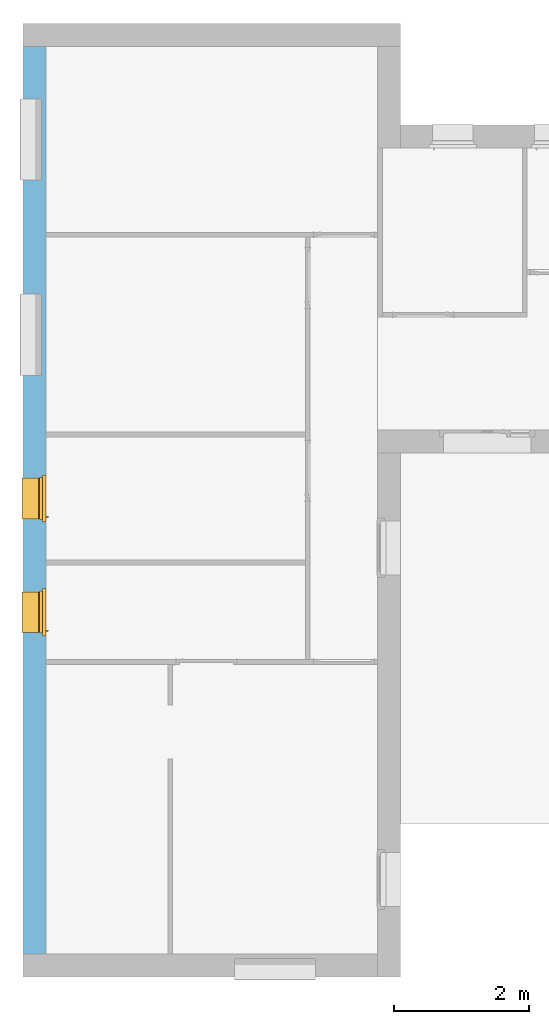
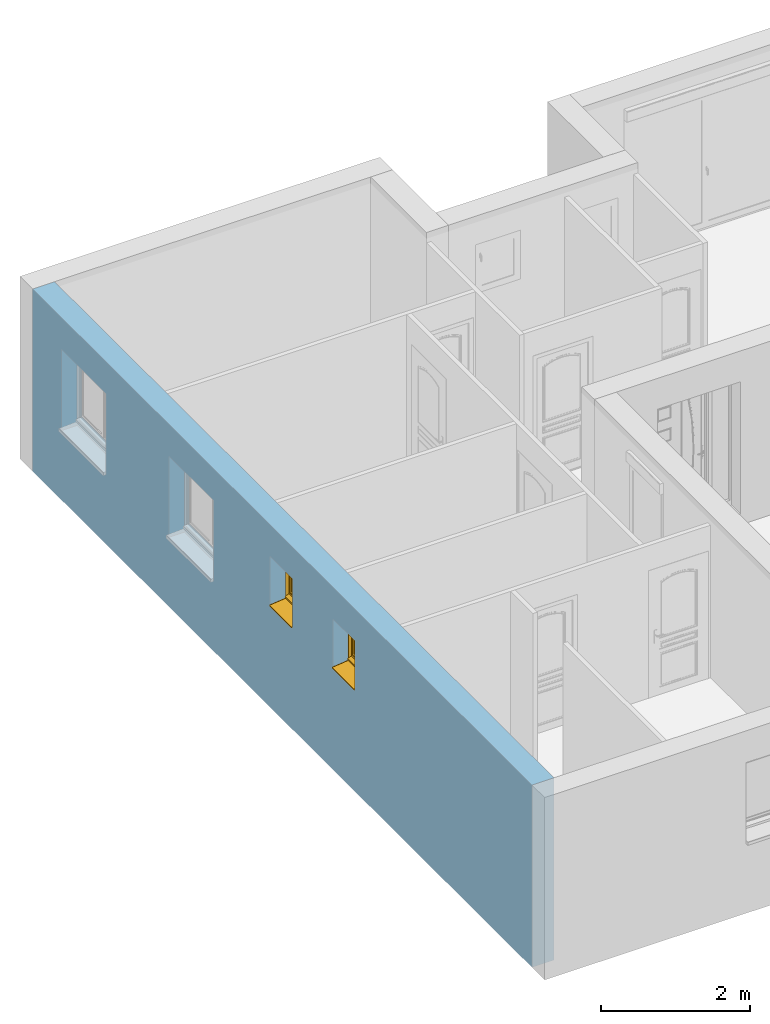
# One storey, part 8 of 23: 2 windows, 4 openings, plus 1 element that does not belong to this part.
"""IFC2X3 building model written with IfcOpenShell, lengths in metres."""

from ifc_helpers import new_model, entity, si_unit, converted_unit, derived_unit, direction, frame, frame_2d, origin, place, context, subcontext, project, spatial, rectangle, extrude, faceted_brep, source, transform, mapped, material, material_list, layer, layer_set, layer_usage, type_object, type_shapes, element, fill, save


model = new_model("IFC2X3")

# Units and contexts
model_context = context("Model", 3, precision=1e-05, world=origin(), true_north=direction((6.12303176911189e-17, 1.0)))
body_context = subcontext(model_context, "Body", "Model", "MODEL_VIEW")
ifc_project = project(units=[si_unit("LENGTHUNIT", "METRE"), si_unit("AREAUNIT", "SQUARE_METRE"), si_unit("VOLUMEUNIT", "CUBIC_METRE"), converted_unit("PLANEANGLEUNIT", "DEGREE", entity("IfcRatioMeasure", 0.0174532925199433), si_unit("PLANEANGLEUNIT", "RADIAN"), dimensions=[0, 0, 0, 0, 0, 0, 0]), si_unit("MASSUNIT", "GRAM", prefix="KILO"), derived_unit("MASSDENSITYUNIT", [(si_unit("MASSUNIT", "GRAM", prefix="KILO"), 1), (si_unit("LENGTHUNIT", "METRE"), -3)]), si_unit("TIMEUNIT", "SECOND"), si_unit("FREQUENCYUNIT", "HERTZ"), si_unit("THERMODYNAMICTEMPERATUREUNIT", "DEGREE_CELSIUS"), derived_unit("THERMALTRANSMITTANCEUNIT", [(si_unit("MASSUNIT", "GRAM", prefix="KILO"), 1), (si_unit("THERMODYNAMICTEMPERATUREUNIT", "KELVIN"), -1), (si_unit("TIMEUNIT", "SECOND"), -3)]), derived_unit("VOLUMETRICFLOWRATEUNIT", [(si_unit("LENGTHUNIT", "METRE"), 3), (si_unit("TIMEUNIT", "SECOND"), -1)]), si_unit("ELECTRICCURRENTUNIT", "AMPERE"), si_unit("ELECTRICVOLTAGEUNIT", "VOLT"), si_unit("POWERUNIT", "WATT"), si_unit("FORCEUNIT", "NEWTON", prefix="KILO"), si_unit("ILLUMINANCEUNIT", "LUX"), si_unit("LUMINOUSFLUXUNIT", "LUMEN"), si_unit("LUMINOUSINTENSITYUNIT", "CANDELA"), derived_unit("USERDEFINED", [(si_unit("MASSUNIT", "GRAM", prefix="KILO"), -1), (si_unit("LENGTHUNIT", "METRE"), -2), (si_unit("TIMEUNIT", "SECOND"), 3), (si_unit("LUMINOUSFLUXUNIT", "LUMEN"), 1)]), derived_unit("LINEARVELOCITYUNIT", [(si_unit("LENGTHUNIT", "METRE"), 1), (si_unit("TIMEUNIT", "SECOND"), -1)]), si_unit("PRESSUREUNIT", "PASCAL"), derived_unit("USERDEFINED", [(si_unit("LENGTHUNIT", "METRE"), -2), (si_unit("MASSUNIT", "GRAM", prefix="KILO"), 1), (si_unit("TIMEUNIT", "SECOND"), -2)])], contexts=[model_context])

# Site, building, storey
site_placement = place(None, origin())
site = spatial("IfcSite", under=ifc_project, at=site_placement, Name="Default", CompositionType="ELEMENT")
building_placement = place(site_placement, origin())
building = spatial("IfcBuilding", under=site, at=building_placement, CompositionType="ELEMENT")
storey_placement = place(building_placement, origin())
storey = spatial("IfcBuildingStorey", under=building, at=storey_placement, Name="2 - Rez de Chaussée", CompositionType="ELEMENT", Elevation=-1.94916083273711e-14)

# Wall, openings, windows
ifc_material_1 = material(Name="Maçonnerie - Enduit")
ifc_layer_1 = layer(ifc_material_1, 0.02)
ifc_material_2 = material(Name="Blocs béton manufacturés")
ifc_layer_2 = layer(ifc_material_2, 0.2)
ifc_material_3 = material(Name="TIFE, isolation extérieure")
ifc_layer_3 = layer(ifc_material_3, 0.12)
ifc_layer_set = layer_set([ifc_layer_1, ifc_layer_2, ifc_layer_3], Name="Mur de base:Isolant 10+1 vide 1 Parpaing 20 Enduit 2")
ifc_layer_usage = layer_usage(ifc_layer_set, "AXIS2", "NEGATIVE", 0.17)
wall_type = type_object("IfcWallType", Name="Mur de base:Isolant 10+1 vide 1 Parpaing 20 Enduit 2", PredefinedType="STANDARD", material=ifc_layer_set)
wall_placement = place(storey_placement, frame((-9.76622246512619, -7.11194499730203, -0.32), z_axis=(0.0, 0.0, 1.0), x_axis=(0.0, 1.0, 0.0)))
wall = element("IfcWallStandardCase", 1, at=wall_placement, inside=storey, type_object=wall_type, material=ifc_layer_usage, Name="Mur de base:Isolant 10+1 vide 1 Parpaing 20 Enduit 2", ObjectType="Mur de base:Isolant 10+1 vide 1 Parpaing 20 Enduit 2", context=body_context, shape_type="SweptSolid", body=[
    extrude(rectangle(XDim=13.41, YDim=0.340000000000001, at=frame_2d((6.705, -1.94289029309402e-16), x_axis=(-1.0, 0.0))), origin(), (0.0, 0.0, 1.0), 2.99000000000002),
])
opening_1_placement = place(wall_placement, frame((11.385, 0.499999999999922, 1.14), z_axis=(0.0, 0.0, 1.0), x_axis=(0.0, -1.0, 0.0)))
element("IfcOpeningElement", 2, at=opening_1_placement, cuts=wall, Name="Mur de base:Isolant 10+1 vide 1 Parpaing 20 Enduit 2", ObjectType="Opening", context=body_context, shape_type="Brep", body=[
    faceted_brep([(1.0, 1.25, 1.33), (1.0, 0.0499999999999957, 1.33), (1.0, 0.0499999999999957, 0.0799999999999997), (1.0, 1.25, 0.0799999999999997), (0.0, 1.25, 1.33), (0.0, 1.25, 0.0799999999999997), (0.0, 0.0500000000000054, 0.0799999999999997), (0.0, 0.0500000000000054, 1.33), (0.68300000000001, 1.25, 1.33), (0.683000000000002, 0.0499999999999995, 1.33), (0.683000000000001, 0.0499999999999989, 0.0799999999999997), (0.683000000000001, 0.0100000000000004, 0.0799999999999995), (0.569999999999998, 0.0100000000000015, 0.0799999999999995), (0.569999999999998, 0.05, 0.0799999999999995), (0.604999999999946, 0.0499999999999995, 0.0799999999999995), (0.604999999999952, 1.25, 0.0799999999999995), (0.570000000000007, 1.25, 0.0799999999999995), (0.570000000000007, 1.29, 0.0799999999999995), (0.683000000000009, 1.29, 0.0799999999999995), (0.683000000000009, 1.25, 0.0799999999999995), (0.683000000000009, 1.29, 1.37), (0.683000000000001, 0.010000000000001, 1.37), (0.569999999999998, 0.0100000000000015, 1.37), (0.569999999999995, 0.0, 1.37), (0.569999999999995, 0.0, 1.55), (0.570000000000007, 1.3, 1.55), (0.570000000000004, 1.3, 1.37), (0.570000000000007, 1.29, 1.37), (0.570000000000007, 1.25, 1.33), (0.569999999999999, 0.0500000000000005, 1.33), (0.702999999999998, 0.0, 1.55), (0.702999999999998, 0.0, 1.37), (0.703000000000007, 1.3, 1.55), (0.703000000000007, 1.3, 1.37), (0.569999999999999, 0.0499999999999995, 0.0), (0.570000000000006, 1.25, 0.0), (0.604999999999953, 1.25, 0.0349999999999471), (0.604999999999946, 0.0499999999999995, 0.0349999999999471), (0.284999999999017, 0.0500000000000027, 0.0799999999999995), (0.284999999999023, 1.25, 0.0799999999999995), (0.284999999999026, 1.25, 0.0), (0.284999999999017, 0.0500000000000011, 0.0)], [[[0, 1, 2, 3]], [[4, 5, 6, 7]], [[0, 8, 9, 1]], [[1, 9, 10, 2]], [[2, 10, 11, 12, 13, 14, 15, 16, 17, 18, 19, 3]], [[3, 19, 8, 0]], [[10, 9, 8, 19, 18, 20, 21, 11]], [[11, 21, 22, 12]], [[12, 22, 23, 24, 25, 26, 27, 17, 16, 28, 29, 13]], [[18, 17, 27, 20]], [[30, 24, 23, 31]], [[32, 33, 26, 25]], [[30, 32, 25, 24]], [[23, 22, 21, 20, 27, 26, 33, 31]], [[31, 33, 32, 30]], [[34, 35, 36, 37]], [[37, 36, 15, 14]], [[38, 39, 40, 41]], [[41, 40, 35, 34]], [[4, 28, 16, 15, 36, 35, 40, 39, 5]], [[5, 39, 38, 6]], [[6, 38, 41, 34, 37, 14, 13, 29, 7]], [[7, 29, 28, 4]]]),
])
opening_2_placement = place(wall_placement, frame((8.5, 0.499999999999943, 1.14), z_axis=(0.0, 0.0, 1.0), x_axis=(0.0, -1.0, 0.0)))
element("IfcOpeningElement", 3, at=opening_2_placement, cuts=wall, Name="Mur de base:Isolant 10+1 vide 1 Parpaing 20 Enduit 2", ObjectType="Opening", context=body_context, shape_type="Brep", body=[
    faceted_brep([(1.0, 1.24999999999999, 1.33), (1.0, 0.0499999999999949, 1.33), (1.0, 0.0499999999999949, 0.0799999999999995), (1.0, 1.24999999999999, 0.0799999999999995), (0.0, 1.25, 1.33), (0.0, 1.25, 0.0799999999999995), (0.0, 0.0500000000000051, 0.0799999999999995), (0.0, 0.0500000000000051, 1.33), (0.68300000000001, 1.25, 1.33), (0.683000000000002, 0.0499999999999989, 1.33), (0.683000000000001, 0.0499999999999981, 0.0799999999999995), (0.683000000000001, 0.00999999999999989, 0.0799999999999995), (0.569999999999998, 0.0100000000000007, 0.0799999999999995), (0.569999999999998, 0.0499999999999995, 0.0799999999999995), (0.604999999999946, 0.0499999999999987, 0.0799999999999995), (0.604999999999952, 1.25, 0.0799999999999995), (0.570000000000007, 1.25, 0.0799999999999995), (0.570000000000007, 1.29, 0.0799999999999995), (0.683000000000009, 1.29, 0.0799999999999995), (0.683000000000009, 1.25, 0.0799999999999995), (0.683000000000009, 1.29, 1.37), (0.683000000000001, 0.00999999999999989, 1.37), (0.569999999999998, 0.0100000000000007, 1.37), (0.569999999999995, 0.0, 1.37), (0.569999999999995, 0.0, 1.55), (0.570000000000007, 1.3, 1.55), (0.570000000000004, 1.3, 1.37), (0.570000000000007, 1.29, 1.37), (0.570000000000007, 1.25, 1.33), (0.569999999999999, 0.0499999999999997, 1.33), (0.702999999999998, 0.0, 1.55), (0.702999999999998, 0.0, 1.37), (0.703000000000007, 1.3, 1.55), (0.703000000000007, 1.3, 1.37), (0.569999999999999, 0.0499999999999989, 0.0), (0.570000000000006, 1.25, 0.0), (0.604999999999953, 1.25, 0.0349999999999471), (0.604999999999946, 0.0499999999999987, 0.0349999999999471), (0.284999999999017, 0.0500000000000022, 0.0799999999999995), (0.284999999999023, 1.25, 0.0799999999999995), (0.284999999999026, 1.25, 0.0), (0.284999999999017, 0.0500000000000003, 0.0)], [[[0, 1, 2, 3]], [[4, 5, 6, 7]], [[0, 8, 9, 1]], [[1, 9, 10, 2]], [[2, 10, 11, 12, 13, 14, 15, 16, 17, 18, 19, 3]], [[3, 19, 8, 0]], [[10, 9, 8, 19, 18, 20, 21, 11]], [[11, 21, 22, 12]], [[12, 22, 23, 24, 25, 26, 27, 17, 16, 28, 29, 13]], [[18, 17, 27, 20]], [[30, 24, 23, 31]], [[32, 33, 26, 25]], [[30, 32, 25, 24]], [[23, 22, 21, 20, 27, 26, 33, 31]], [[31, 33, 32, 30]], [[34, 35, 36, 37]], [[37, 36, 15, 14]], [[38, 39, 40, 41]], [[41, 40, 35, 34]], [[4, 28, 16, 15, 36, 35, 40, 39, 5]], [[5, 39, 38, 6]], [[6, 38, 41, 34, 37, 14, 13, 29, 7]], [[7, 29, 28, 4]]]),
])
opening_3_placement = place(wall_placement, frame((6.38000000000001, 0.499999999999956, 1.64298850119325), z_axis=(0.0, 0.0, 1.0), x_axis=(0.0, -1.0, 0.0)))
opening_3 = element("IfcOpeningElement", 4, at=opening_3_placement, cuts=wall, Name="Mur de base:Isolant 10+1 vide 1 Parpaing 20 Enduit 2", ObjectType="Opening", context=body_context, shape_type="Brep", body=[
    faceted_brep([(0.590000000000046, 0.0499999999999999, 0.0770114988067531), (0.569999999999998, 0.05, 0.0770114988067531), (0.569999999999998, 0.05, 0.827011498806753), (0.0, 0.0500000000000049, 0.827011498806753), (0.0, 0.0500000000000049, 0.0), (0.590000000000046, 0.0499999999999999, 0.062011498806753), (1.0, 0.649999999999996, 0.0770114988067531), (0.670000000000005, 0.649999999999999, 0.0770114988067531), (0.670000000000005, 0.649999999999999, 0.827011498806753), (1.0, 0.649999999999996, 0.827011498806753), (1.0, 0.0499999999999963, 0.0770114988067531), (0.67, 0.0499999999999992, 0.0770114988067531), (0.670000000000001, 0.0, 0.0770114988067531), (0.620000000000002, 0.0, 0.0770114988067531), (0.620000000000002, 0.04, 0.0770114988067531), (0.569999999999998, 0.0400000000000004, 0.0770114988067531), (0.590000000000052, 0.65, 0.0770114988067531), (0.570000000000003, 0.65, 0.0770114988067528), (0.570000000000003, 0.66, 0.0770114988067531), (0.620000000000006, 0.66, 0.0770114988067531), (0.620000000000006, 0.699999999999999, 0.0770114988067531), (0.670000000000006, 0.699999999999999, 0.0770114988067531), (1.0, 0.0499999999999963, 0.827011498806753), (0.570000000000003, 0.65, 0.827011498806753), (0.0, 0.650000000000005, 0.827011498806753), (0.0, 0.650000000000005, 0.0), (0.590000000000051, 0.65, 0.062011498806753), (0.670000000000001, 0.0, 0.877011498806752), (0.620000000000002, 0.0, 0.877011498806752), (0.620000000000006, 0.699999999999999, 0.877011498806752), (0.620000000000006, 0.66, 0.837011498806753), (0.620000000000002, 0.0400000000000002, 0.837011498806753), (0.569999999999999, 0.0400000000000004, 0.837011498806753), (0.570000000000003, 0.66, 0.837011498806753), (0.67, 0.0499999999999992, 0.827011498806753), (0.670000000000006, 0.699999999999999, 0.877011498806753)], [[[0, 1, 2, 3, 4, 5]], [[6, 7, 8, 9]], [[10, 11, 12, 13, 14, 15, 1, 0, 16, 17, 18, 19, 20, 21, 7, 6]], [[10, 6, 9, 22]], [[3, 2, 23, 24]], [[3, 24, 25, 4]], [[4, 25, 26, 5]], [[5, 26, 16, 0]], [[12, 27, 28, 13]], [[13, 28, 29, 20, 19, 30, 31, 14]], [[14, 31, 32, 15]], [[15, 32, 33, 18, 17, 23, 2, 1]], [[11, 34, 8, 7, 21, 35, 27, 12]], [[27, 35, 29, 28]], [[30, 33, 32, 31]], [[29, 35, 21, 20]], [[19, 18, 33, 30]], [[9, 8, 34, 22]], [[24, 23, 17, 16, 26, 25]], [[22, 34, 11, 10]]]),
])
opening_4_placement = place(wall_placement, frame((4.70000000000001, 0.499999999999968, 1.64298850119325), z_axis=(0.0, 0.0, 1.0), x_axis=(0.0, -1.0, 0.0)))
opening_4 = element("IfcOpeningElement", 5, at=opening_4_placement, cuts=wall, Name="Mur de base:Isolant 10+1 vide 1 Parpaing 20 Enduit 2", ObjectType="Opening", context=body_context, shape_type="Brep", body=[
    faceted_brep([(0.590000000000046, 0.0499999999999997, 0.0770114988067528), (0.569999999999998, 0.05, 0.0770114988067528), (0.569999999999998, 0.05, 0.827011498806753), (0.0, 0.0500000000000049, 0.827011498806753), (0.0, 0.0500000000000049, 0.0), (0.590000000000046, 0.0499999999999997, 0.062011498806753), (1.0, 0.649999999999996, 0.0770114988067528), (0.670000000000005, 0.649999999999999, 0.0770114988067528), (0.670000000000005, 0.649999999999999, 0.827011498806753), (1.0, 0.649999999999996, 0.827011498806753), (1.0, 0.0499999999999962, 0.0770114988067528), (0.67, 0.0499999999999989, 0.0770114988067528), (0.670000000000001, 0.0, 0.0770114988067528), (0.620000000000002, 0.0, 0.0770114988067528), (0.620000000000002, 0.0400000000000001, 0.0770114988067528), (0.569999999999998, 0.0400000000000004, 0.0770114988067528), (0.590000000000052, 0.649999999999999, 0.0770114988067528), (0.570000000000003, 0.65, 0.0770114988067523), (0.570000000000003, 0.66, 0.0770114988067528), (0.620000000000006, 0.66, 0.0770114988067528), (0.620000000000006, 0.7, 0.0770114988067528), (0.670000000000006, 0.699999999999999, 0.0770114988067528), (1.0, 0.0499999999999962, 0.827011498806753), (0.570000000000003, 0.649999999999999, 0.827011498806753), (0.0, 0.650000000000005, 0.827011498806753), (0.0, 0.650000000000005, 0.0), (0.590000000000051, 0.649999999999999, 0.062011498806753), (0.670000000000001, 0.0, 0.877011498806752), (0.620000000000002, 0.0, 0.877011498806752), (0.620000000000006, 0.699999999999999, 0.877011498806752), (0.620000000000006, 0.66, 0.837011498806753), (0.620000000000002, 0.0400000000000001, 0.837011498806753), (0.569999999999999, 0.0400000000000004, 0.837011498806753), (0.570000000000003, 0.66, 0.837011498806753), (0.67, 0.0499999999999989, 0.827011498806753), (0.670000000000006, 0.699999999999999, 0.877011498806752)], [[[0, 1, 2, 3, 4, 5]], [[6, 7, 8, 9]], [[10, 11, 12, 13, 14, 15, 1, 0, 16, 17, 18, 19, 20, 21, 7, 6]], [[10, 6, 9, 22]], [[3, 2, 23, 24]], [[3, 24, 25, 4]], [[4, 25, 26, 5]], [[5, 26, 16, 0]], [[12, 27, 28, 13]], [[13, 28, 29, 20, 19, 30, 31, 14]], [[14, 31, 32, 15]], [[15, 32, 33, 18, 17, 23, 2, 1]], [[11, 34, 8, 7, 21, 35, 27, 12]], [[27, 35, 29, 28]], [[30, 33, 32, 31]], [[29, 35, 21, 20]], [[19, 18, 33, 30]], [[9, 8, 34, 22]], [[24, 23, 17, 16, 26, 25]], [[22, 34, 11, 10]]]),
])
ifc_material_4 = material(Name="Fenêtre - Poignée")
ifc_material_5 = material(Name="Maçonnerie - Béton")
ifc_material_6 = material(Name="Fenêtre - Vitrage")
ifc_material_7 = material(Name="Fenêtre - Cadre")
ifc_material_list_1 = material_list([ifc_material_4, ifc_material_5, ifc_material_6, ifc_material_7])
ifc_material_list_2 = material_list([ifc_material_4, ifc_material_5, ifc_material_6, ifc_material_7])
window_style = type_object("IfcWindowStyle", Name="Fe  60 x 75 cm - Vitrage imprimé", ConstructionType="NOTDEFINED", OperationType="SINGLE_PANEL", ParameterTakesPrecedence=False, Sizeable=False, material=ifc_material_list_2)
shared_shape = source(origin(), body_context, "Body", "Brep", [
    faceted_brep([(0.0806460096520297, -0.67600000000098, 0.699045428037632), (0.08203392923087, -0.67600000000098, 0.697657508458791), (0.08203392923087, -0.67600000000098, 0.686343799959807), (0.0806676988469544, -0.67600000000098, 0.684977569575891), (0.0693323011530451, -0.67600000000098, 0.684977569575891), (0.0679660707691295, -0.67600000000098, 0.686343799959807), (0.0679660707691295, -0.67600000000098, 0.697657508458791), (0.0693539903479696, -0.67600000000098, 0.699045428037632), (0.0806460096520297, -0.688913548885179, 0.699045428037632), (0.08203392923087, -0.68833865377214, 0.697657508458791), (0.08203392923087, -0.70164600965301, 0.684350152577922), (0.08203392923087, -0.70164600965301, 0.597011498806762), (0.08203392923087, -0.690332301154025, 0.597011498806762), (0.08203392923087, -0.690332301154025, 0.679663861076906), (0.08203392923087, -0.683652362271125, 0.686343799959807), (0.0806676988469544, -0.683086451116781, 0.684977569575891), (0.0693323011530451, -0.683086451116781, 0.684977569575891), (0.0679660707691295, -0.683652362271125, 0.686343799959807), (0.0679660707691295, -0.690332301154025, 0.679663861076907), (0.0679660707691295, -0.690332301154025, 0.597011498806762), (0.0679660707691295, -0.70164600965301, 0.597011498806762), (0.0679660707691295, -0.70164600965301, 0.684350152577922), (0.0679660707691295, -0.68833865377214, 0.697657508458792), (0.0693539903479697, -0.688913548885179, 0.699045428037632), (0.0806460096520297, -0.70303392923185, 0.684925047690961), (0.0806676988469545, -0.688966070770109, 0.679097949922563), (0.0693323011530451, -0.688966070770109, 0.679097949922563), (0.0693539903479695, -0.70303392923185, 0.684925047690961), (0.0806460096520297, -0.70303392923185, 0.597011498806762), (0.0693539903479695, -0.70303392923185, 0.597011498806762), (0.0693323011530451, -0.688966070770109, 0.597011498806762), (0.0806676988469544, -0.688966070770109, 0.597011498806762)], [[[0, 1, 2, 3, 4, 5, 6, 7]], [[1, 0, 8, 9]], [[2, 1, 9, 10, 11, 12, 13, 14]], [[3, 2, 14, 15]], [[4, 3, 15, 16]], [[5, 4, 16, 17]], [[6, 5, 17, 18, 19, 20, 21, 22]], [[7, 6, 22, 23]], [[0, 7, 23, 8]], [[9, 8, 24, 10]], [[15, 14, 13, 25]], [[16, 15, 25, 26]], [[17, 16, 26, 18]], [[23, 22, 21, 27]], [[8, 23, 27, 24]], [[28, 29, 20, 19, 30, 31, 12, 11]], [[10, 24, 28, 11]], [[25, 13, 12, 31]], [[26, 25, 31, 30]], [[18, 26, 30, 19]], [[27, 21, 20, 29]], [[24, 27, 29, 28]]]),
    faceted_brep([(0.0820000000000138, -0.676000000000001, 0.717011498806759), (0.0679999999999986, -0.676000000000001, 0.717011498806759), (0.0629999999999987, -0.676000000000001, 0.71201149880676), (0.0629999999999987, -0.676000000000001, 0.642011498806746), (0.0679999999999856, -0.676000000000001, 0.637011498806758), (0.0820000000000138, -0.676000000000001, 0.637011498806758), (0.0869999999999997, -0.676000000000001, 0.642011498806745), (0.0869999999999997, -0.676000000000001, 0.71201149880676), (0.0820000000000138, -0.670000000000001, 0.717011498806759), (0.0869999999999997, -0.670000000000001, 0.71201149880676), (0.0869999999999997, -0.670000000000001, 0.642011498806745), (0.0820000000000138, -0.670000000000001, 0.637011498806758), (0.0679999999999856, -0.670000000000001, 0.637011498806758), (0.0629999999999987, -0.670000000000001, 0.642011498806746), (0.0629999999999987, -0.670000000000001, 0.71201149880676), (0.0679999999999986, -0.670000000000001, 0.717011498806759)], [[[0, 1, 2, 3, 4, 5, 6, 7]], [[8, 9, 10, 11, 12, 13, 14, 15]], [[1, 0, 8, 15]], [[2, 1, 15, 14]], [[3, 2, 14, 13]], [[4, 3, 13, 12]], [[5, 4, 12, 11]], [[6, 5, 11, 10]], [[7, 6, 10, 9]], [[0, 7, 9, 8]]]),
    faceted_brep([(0.649999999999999, -0.314999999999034, 0.0383630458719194), (0.649999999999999, -0.584999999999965, 0.0667411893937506), (0.649999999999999, -0.584999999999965, 0.077011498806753), (0.649999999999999, -0.589999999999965, 0.077011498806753), (0.649999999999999, -0.589999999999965, 0.0620114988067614), (0.649999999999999, -0.319999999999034, 0.0336333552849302), (0.649999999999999, -0.319999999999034, 0.0233328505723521), (0.649999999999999, -0.314999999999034, 0.0228073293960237), (0.0499999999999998, -0.314999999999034, 0.0383630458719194), (0.0499999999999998, -0.314999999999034, 0.0228073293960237), (0.0499999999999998, -0.319999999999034, 0.0233328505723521), (0.0499999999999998, -0.319999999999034, 0.0336333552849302), (0.0499999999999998, -0.589999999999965, 0.0620114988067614), (0.0499999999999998, -0.589999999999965, 0.077011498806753), (0.0499999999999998, -0.584999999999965, 0.077011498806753), (0.0499999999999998, -0.584999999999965, 0.0667411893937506)], [[[0, 1, 2, 3, 4, 5, 6, 7]], [[8, 9, 10, 11, 12, 13, 14, 15]], [[1, 0, 8, 15]], [[2, 1, 15, 14]], [[3, 2, 14, 13]], [[4, 3, 13, 12]], [[5, 4, 12, 11]], [[6, 5, 11, 10]], [[7, 6, 10, 9]], [[0, 7, 9, 8]]]),
    faceted_brep([(0.0500000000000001, -0.314999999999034, 0.0397889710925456), (0.0500000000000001, -0.314999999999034, 0.0383630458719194), (0.0499999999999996, -0.584999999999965, 0.0667411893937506), (0.0499999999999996, -0.584999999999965, 0.0717687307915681), (0.0500000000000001, -0.318581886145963, 0.0437670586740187), (0.0500000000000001, -0.316027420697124, 0.042465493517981), (0.0549999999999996, -0.584999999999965, 0.0717687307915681), (0.0549999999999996, -0.584999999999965, 0.0667411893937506), (0.0550000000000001, -0.314999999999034, 0.0383630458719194), (0.0550000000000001, -0.314999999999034, 0.0397889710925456), (0.0550000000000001, -0.316027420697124, 0.042465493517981), (0.0550000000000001, -0.318581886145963, 0.0437670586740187)], [[[0, 1, 2, 3, 4, 5]], [[6, 7, 8, 9, 10, 11]], [[2, 1, 8, 7]], [[3, 2, 7, 6]], [[4, 3, 6, 11]], [[4, 11, 10, 5]], [[10, 9, 0, 5]], [[1, 0, 9, 8]]]),
    faceted_brep([(0.645, -0.314999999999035, 0.0397889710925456), (0.645, -0.314999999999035, 0.0383630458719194), (0.644999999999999, -0.584999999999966, 0.0667411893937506), (0.644999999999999, -0.584999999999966, 0.0717687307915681), (0.645, -0.318581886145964, 0.0437670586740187), (0.645, -0.316027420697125, 0.042465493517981), (0.649999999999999, -0.584999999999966, 0.0717687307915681), (0.649999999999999, -0.584999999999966, 0.0667411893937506), (0.65, -0.314999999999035, 0.0383630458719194), (0.65, -0.314999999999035, 0.0397889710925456), (0.65, -0.316027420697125, 0.042465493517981), (0.65, -0.318581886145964, 0.0437670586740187)], [[[0, 1, 2, 3, 4, 5]], [[6, 7, 8, 9, 10, 11]], [[2, 1, 8, 7]], [[3, 2, 7, 6]], [[4, 3, 6, 11]], [[4, 11, 10, 5]], [[10, 9, 0, 5]], [[1, 0, 9, 8]]]),
    faceted_brep([(0.0999999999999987, -0.644000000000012, 0.177011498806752), (0.0999999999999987, -0.644000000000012, 0.777011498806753), (0.6, -0.644000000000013, 0.777011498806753), (0.6, -0.644000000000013, 0.177011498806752), (0.0999999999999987, -0.656000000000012, 0.177011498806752), (0.0999999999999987, -0.656000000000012, 0.777011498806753), (0.6, -0.656000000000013, 0.777011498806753), (0.6, -0.656000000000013, 0.177011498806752)], [[[0, 1, 2, 3]], [[1, 0, 4, 5]], [[3, 2, 6, 7]], [[0, 3, 7, 4]], [[4, 7, 6, 5]], [[2, 1, 5, 6]]]),
    faceted_brep([(0.099999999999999, -0.630000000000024, 0.777011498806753), (0.0999999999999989, -0.670000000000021, 0.777011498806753), (0.099999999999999, -0.670000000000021, 0.177011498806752), (0.0999999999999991, -0.630000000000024, 0.177011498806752), (0.6, -0.670000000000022, 0.177011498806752), (0.6, -0.630000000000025, 0.177011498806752), (0.6, -0.670000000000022, 0.777011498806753), (0.649999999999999, -0.670000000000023, 0.127011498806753), (0.649999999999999, -0.670000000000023, 0.827011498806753), (0.0499999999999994, -0.670000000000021, 0.827011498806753), (0.0499999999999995, -0.670000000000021, 0.127011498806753), (0.6, -0.630000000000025, 0.777011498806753), (0.0499999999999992, -0.630000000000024, 0.127011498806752), (0.0499999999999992, -0.630000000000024, 0.827011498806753), (0.65, -0.630000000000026, 0.827011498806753), (0.649999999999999, -0.630000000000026, 0.127011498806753)], [[[0, 1, 2, 3]], [[3, 2, 4, 5]], [[2, 1, 6, 4], [7, 8, 9, 10]], [[5, 4, 6, 11]], [[5, 11, 0, 3], [12, 13, 14, 15]], [[9, 13, 12, 10]], [[10, 12, 15, 7]], [[7, 15, 14, 8]], [[11, 6, 1, 0]], [[8, 14, 13, 9]]], outer=[[True], [True], [False, True], [True], [False, True], [True], [True], [True], [True], [True]]),
    faceted_brep([(0.0, -0.670000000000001, 0.077011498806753), (0.0, -0.620000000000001, 0.077011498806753), (0.0499999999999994, -0.620000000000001, 0.077011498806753), (0.0499999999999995, -0.570000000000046, 0.0770114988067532), (0.649999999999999, -0.570000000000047, 0.077011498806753), (0.649999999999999, -0.620000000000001, 0.0770114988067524), (0.699999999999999, -0.620000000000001, 0.077011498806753), (0.699999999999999, -0.670000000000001, 0.077011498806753), (0.0, -0.670000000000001, 0.877011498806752), (0.0, -0.620000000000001, 0.877011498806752), (0.699999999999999, -0.620000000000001, 0.877011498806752), (0.649999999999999, -0.620000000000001, 0.116387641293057), (0.0499999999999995, -0.620000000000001, 0.116387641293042), (0.0649999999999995, -0.620000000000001, 0.812011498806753), (0.0649999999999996, -0.620000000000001, 0.142011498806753), (0.634999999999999, -0.620000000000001, 0.142011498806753), (0.634999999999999, -0.620000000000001, 0.812011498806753), (0.0499999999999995, -0.560000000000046, 0.100310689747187), (0.0499999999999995, -0.560000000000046, 0.0720114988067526), (0.0499999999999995, -0.570000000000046, 0.0720114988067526), (0.649999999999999, -0.570000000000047, 0.0720114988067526), (0.649999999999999, -0.560000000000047, 0.0720114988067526), (0.649999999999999, -0.560000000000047, 0.100310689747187), (0.699999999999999, -0.670000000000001, 0.877011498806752), (0.649999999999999, -0.670000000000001, 0.827011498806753), (0.649999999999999, -0.670000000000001, 0.127011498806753), (0.0499999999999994, -0.67, 0.127011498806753), (0.0499999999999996, -0.670000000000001, 0.827011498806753), (0.0649999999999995, -0.630000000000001, 0.812011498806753), (0.0649999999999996, -0.630000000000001, 0.142011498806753), (0.634999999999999, -0.630000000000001, 0.142011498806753), (0.634999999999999, -0.630000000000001, 0.812011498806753), (0.649999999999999, -0.630000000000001, 0.827011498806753), (0.0499999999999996, -0.630000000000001, 0.827011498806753), (0.0499999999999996, -0.630000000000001, 0.127011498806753), (0.649999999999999, -0.630000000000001, 0.127011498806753)], [[[0, 1, 2, 3, 4, 5, 6, 7]], [[1, 0, 8, 9]], [[1, 9, 10, 6, 5, 11, 12, 2], [13, 14, 15, 16]], [[12, 17, 18, 19, 3, 2]], [[3, 19, 20, 4]], [[4, 20, 21, 22, 11, 5]], [[6, 10, 23, 7]], [[0, 7, 23, 8], [24, 25, 26, 27]], [[13, 28, 29, 14]], [[29, 30, 15, 14]], [[31, 16, 15, 30]], [[17, 12, 11, 22]], [[32, 33, 34, 35], [28, 31, 30, 29]], [[34, 33, 27, 26]], [[26, 25, 35, 34]], [[24, 32, 35, 25]], [[18, 17, 22, 21]], [[19, 18, 21, 20]], [[13, 16, 31, 28]], [[33, 32, 24, 27]], [[10, 9, 8, 23]]]),
    faceted_brep([(0.0499999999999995, -0.569999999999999, 0.077011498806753), (0.0499999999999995, -0.620000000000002, 0.077011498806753), (0.0399999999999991, -0.620000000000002, 0.077011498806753), (0.0399999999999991, -0.569999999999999, 0.077011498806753), (0.0499999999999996, -0.569999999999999, 0.827011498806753), (0.0499999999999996, -0.620000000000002, 0.827011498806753), (0.649999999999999, -0.620000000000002, 0.827011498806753), (0.649999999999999, -0.620000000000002, 0.077011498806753), (0.66, -0.620000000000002, 0.0770114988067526), (0.66, -0.620000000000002, 0.837011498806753), (0.0399999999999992, -0.620000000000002, 0.837011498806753), (0.0399999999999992, -0.569999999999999, 0.837011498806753), (0.66, -0.569999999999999, 0.837011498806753), (0.66, -0.569999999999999, 0.077011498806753), (0.649999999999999, -0.569999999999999, 0.0770114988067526), (0.649999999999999, -0.569999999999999, 0.827011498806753)], [[[0, 1, 2, 3]], [[1, 0, 4, 5]], [[2, 1, 5, 6, 7, 8, 9, 10]], [[3, 2, 10, 11]], [[0, 3, 11, 12, 13, 14, 15, 4]], [[6, 15, 14, 7]], [[14, 13, 8, 7]], [[12, 9, 8, 13]], [[5, 4, 15, 6]], [[11, 10, 9, 12]]]),
])
type_shapes(window_style, [shared_shape])
window_1_placement = place(opening_3_placement, frame((0.0, 0.0, 0.0), z_axis=(0.0, 0.0, 1.0), x_axis=(0.0, 1.0, 0.0)))
window_1 = element("IfcWindow", 6, at=window_1_placement, inside=storey, type_object=window_style, material=ifc_material_list_1, Name="1 Vantail - Droit:Fe  60 x 75 cm - Vitrage imprimé", ObjectType="Fe  60 x 75 cm - Vitrage imprimé", OverallHeight=1.08, OverallWidth=0.699999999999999, context=body_context, shape_type="MappedRepresentation", body=[
    mapped(shared_shape, transform((0.0, 0.0, 0.0), scale=1.0)),
])
fill(opening_3, window_1)
ifc_material_list_3 = material_list([ifc_material_4, ifc_material_5, ifc_material_6, ifc_material_7])
window_2_placement = place(opening_4_placement, frame((0.0, 0.0, 0.0), z_axis=(0.0, 0.0, 1.0), x_axis=(0.0, 1.0, 0.0)))
window_2 = element("IfcWindow", 7, at=window_2_placement, inside=storey, type_object=window_style, material=ifc_material_list_3, Name="1 Vantail - Droit:Fe  60 x 75 cm - Vitrage imprimé", ObjectType="Fe  60 x 75 cm - Vitrage imprimé", OverallHeight=1.08, OverallWidth=0.699999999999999, context=body_context, shape_type="MappedRepresentation", body=[
    mapped(shared_shape, transform((0.0, 0.0, 0.0), scale=1.0)),
])
fill(opening_4, window_2)

save(model, "model.ifc")
